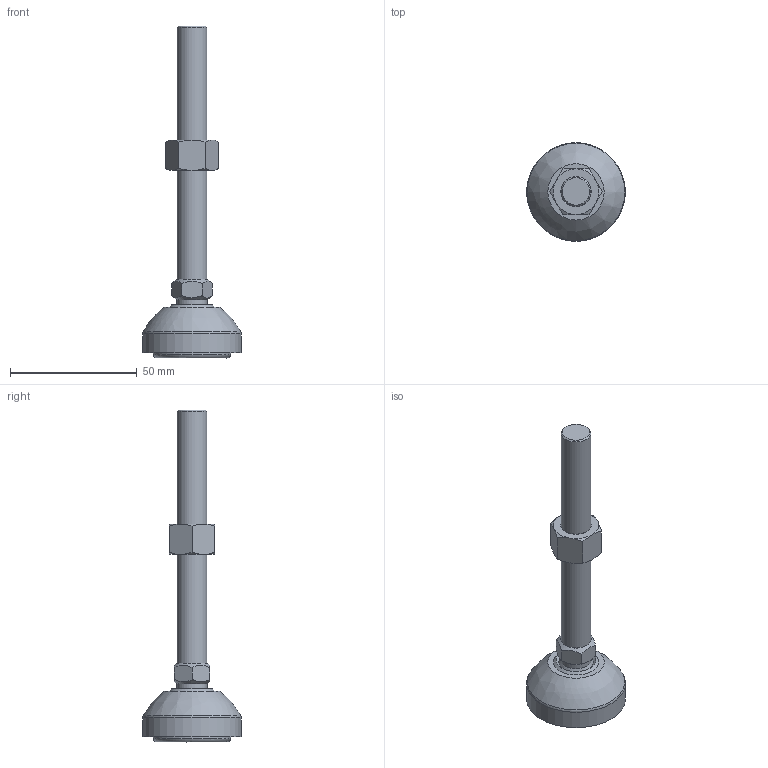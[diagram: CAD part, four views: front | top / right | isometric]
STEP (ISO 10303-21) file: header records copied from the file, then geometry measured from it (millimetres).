
FILE_DESCRIPTION(/* description */ (''),/* implementation_level */ '2;1');
FILE_NAME(/* name */ 'Articulating Anti-slip Levelling Foot - Metal 39mm - M12 - 100mm.step',/* time_stamp */ '2025-10-13T20:27:34+03:00',/* author */ (''),/* organization */ (''),/* preprocessor_version */ 'ST-DEVELOPER v20.1',/* originating_system */ 'Autodesk Translation Framework v14.17.0.0',/* authorisation */ '');
FILE_SCHEMA (('AUTOMOTIVE_DESIGN { 1 0 10303 214 3 1 1 }'));
Length unit declared in the file: millimetre
Products named in the file (5): Articulating Anti-slip Levelling Foot - Metal 39mm - M12 - 100mm; Articulating Levelling Foot Stud - M12 - 100mm; hex nut style 2_am_B18.2.4.2M - Hex nut, Style 2,  M12 x 1.75 --D-N; Articulating Levelling Foot Stud - M12 - 100mm_1; 340.1100A.01
Assembly tree (4 placements, depth 3):
  Articulating Anti-slip Levelling Foot - Metal 39mm - M12 - 100mm
    Articulating Levelling Foot Stud - M12 - 100mm
      hex nut style 2_am_B18.2.4.2M - Hex nut, Style 2,  M12 x 1.75 --D-N
      Articulating Levelling Foot Stud - M12 - 100mm_1
    340.1100A.01
Bounding box: 39 x 39 x 131.01 mm (x, y, z)
Volume: 33828.9 mm3; surface area: 11632.6 mm2
Topology: 3 solids, 4 shells, 127 faces, 293 edges, 181 vertices
Faces by surface type: plane 59, bspline 28, cone 20, cylinder 17, torus 2, sphere 1
Full cylindrical faces by diameter (mm): 4 x1, 10.274 x1, 11.834 x1, 12 x1, 12.166 x1, 15.052 x1, 30.5 x1, 30.85 x1, 39 x1
Entity records: 4948 total; most frequent: CARTESIAN_POINT 2198, ORIENTED_EDGE 582, DIRECTION 519, EDGE_CURVE 291, AXIS2_PLACEMENT_3D 229, VERTEX_POINT 181, EDGE_LOOP 140, FACE_OUTER_BOUND 127
